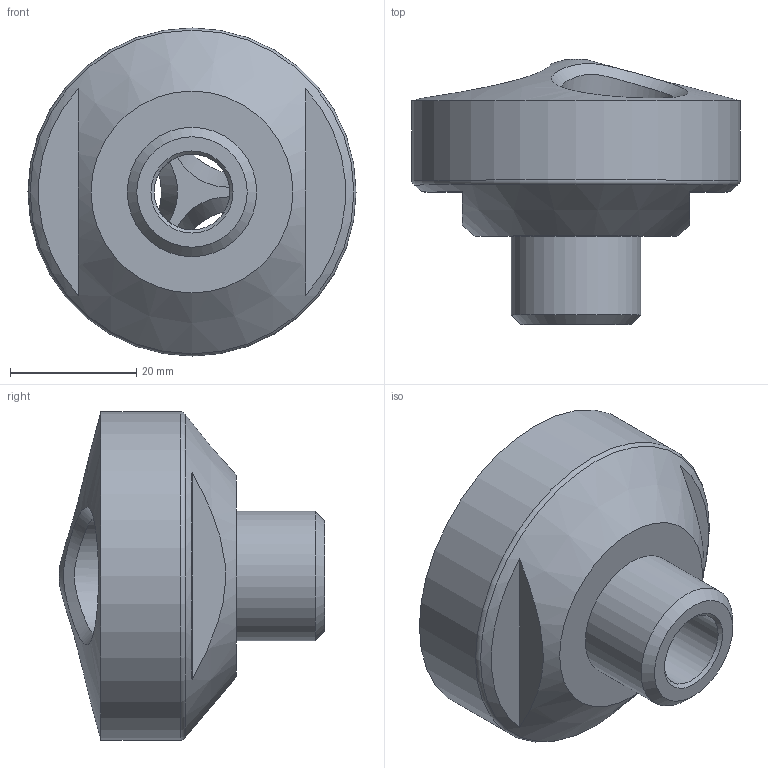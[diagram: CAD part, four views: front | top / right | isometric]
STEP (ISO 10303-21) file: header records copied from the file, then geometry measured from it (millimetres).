
FILE_DESCRIPTION(/* description */ (''),/* implementation_level */ '2;1');
FILE_NAME(/* name */ '60105000024.stp',/* time_stamp */ '2022-06-14T14:51:44+08:00',/* author */ (''),/* organization */ (''),/* preprocessor_version */ 'ST-DEVELOPER v11',/* originating_system */ 'SIEMENS PLM Software NX 7.5',/* authorisation */ '');
FILE_SCHEMA (('CONFIG_CONTROL_DESIGN'));
Length unit declared in the file: millimetre
Products named in the file (1): Admi5148g0x4
Bounding box: 52 x 42 x 52 mm (x, y, z)
Volume: 32479.4 mm3; surface area: 10857.9 mm2
Topology: 1 solids, 1 shells, 25 faces, 70 edges, 44 vertices
Faces by surface type: plane 8, cone 7, cylinder 6, bspline 3, torus 1
Full cylindrical faces by diameter (mm): 12 x1, 18.6 x3, 20.5 x1, 52 x1
Entity records: 2151 total; most frequent: CARTESIAN_POINT 1582, DIRECTION 90, ORIENTED_EDGE 80, EDGE_LOOP 46, AXIS2_PLACEMENT_3D 44, FACE_BOUND 43, EDGE_CURVE 40, VERTEX_POINT 35
